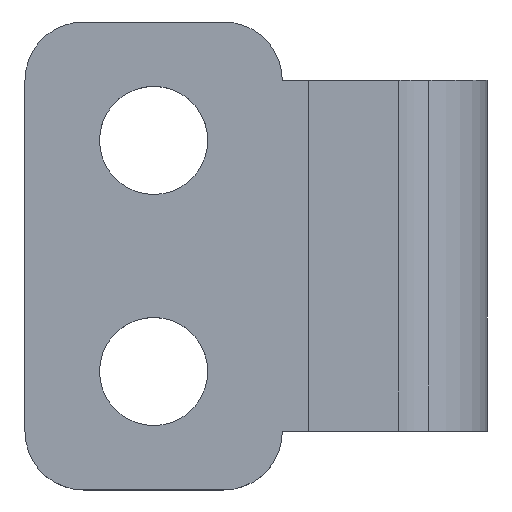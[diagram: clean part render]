
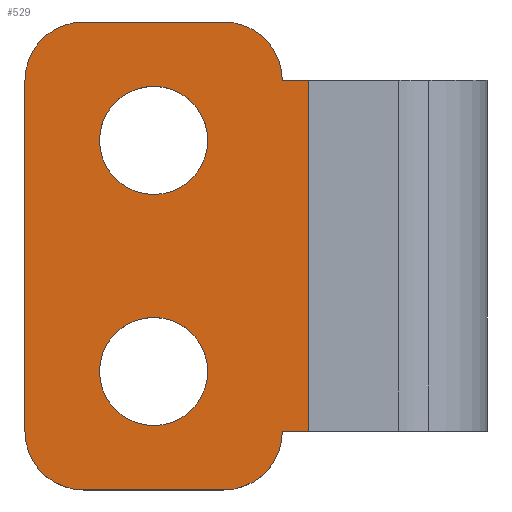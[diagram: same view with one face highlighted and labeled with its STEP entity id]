
A CAD part, top view. The second image highlights one B-rep face of the part: STEP entity #529.
In plain terms, the highlighted planar face has unit normal (0, 0, 1).
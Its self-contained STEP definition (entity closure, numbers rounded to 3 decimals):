
#141=CARTESIAN_POINT('',(-3.5,5.8,-2.35));
#142=VERTEX_POINT('',#141);
#151=CARTESIAN_POINT('',(-3.5,2.1,-2.35));
#152=VERTEX_POINT('',#151);
#153=CARTESIAN_POINT('',(-3.5,3.95,-2.35));
#154=DIRECTION('',(0.0,0.0,-1.0));
#155=DIRECTION('',(0.0,1.0,0.0));
#156=AXIS2_PLACEMENT_3D('',#153,#154,#155);
#157=CIRCLE('',#156,1.85);
#158=EDGE_CURVE('',#152,#142,#157,.T.);
#183=CARTESIAN_POINT('',(-3.5,-2.1,-2.35));
#184=VERTEX_POINT('',#183);
#193=CARTESIAN_POINT('',(-3.5,-5.8,-2.35));
#194=VERTEX_POINT('',#193);
#195=CARTESIAN_POINT('',(-3.5,-3.95,-2.35));
#196=DIRECTION('',(0.0,0.0,-1.0));
#197=DIRECTION('',(0.0,1.0,0.0));
#198=AXIS2_PLACEMENT_3D('',#195,#196,#197);
#199=CIRCLE('',#198,1.85);
#200=EDGE_CURVE('',#194,#184,#199,.T.);
#234=CARTESIAN_POINT('',(-3.5,-3.95,-2.35));
#235=DIRECTION('',(0.0,0.0,-1.0));
#236=DIRECTION('',(0.0,1.0,0.0));
#237=AXIS2_PLACEMENT_3D('',#234,#235,#236);
#238=CIRCLE('',#237,1.85);
#239=EDGE_CURVE('',#184,#194,#238,.T.);
#258=CARTESIAN_POINT('',(-3.5,3.95,-2.35));
#259=DIRECTION('',(0.0,0.0,-1.0));
#260=DIRECTION('',(0.0,1.0,0.0));
#261=AXIS2_PLACEMENT_3D('',#258,#259,#260);
#262=CIRCLE('',#261,1.85);
#263=EDGE_CURVE('',#142,#152,#262,.T.);
#273=CARTESIAN_POINT('',(-7.9,6.0,-2.35));
#274=VERTEX_POINT('',#273);
#275=CARTESIAN_POINT('',(-5.9,8.0,-2.35));
#276=VERTEX_POINT('',#275);
#277=CARTESIAN_POINT('',(-5.9,6.0,-2.35));
#278=DIRECTION('',(0.0,0.0,-1.0));
#279=DIRECTION('',(0.0,1.0,0.0));
#280=AXIS2_PLACEMENT_3D('',#277,#278,#279);
#281=CIRCLE('',#280,2.0);
#282=EDGE_CURVE('',#274,#276,#281,.T.);
#315=CARTESIAN_POINT('',(-1.1,8.,-2.35));
#316=VERTEX_POINT('',#315);
#317=CARTESIAN_POINT('',(-5.9,8.0,-2.35));
#318=DIRECTION('',(1.0,0.0,0.0));
#319=VECTOR('',#318,4.8);
#320=LINE('',#317,#319);
#321=EDGE_CURVE('',#276,#316,#320,.T.);
#346=CARTESIAN_POINT('',(0.9,6.,-2.35));
#347=VERTEX_POINT('',#346);
#348=CARTESIAN_POINT('',(-1.1,6.,-2.35));
#349=DIRECTION('',(0.0,0.0,-1.0));
#350=DIRECTION('',(0.0,1.0,0.0));
#351=AXIS2_PLACEMENT_3D('',#348,#349,#350);
#352=CIRCLE('',#351,2.0);
#353=EDGE_CURVE('',#316,#347,#352,.T.);
#379=CARTESIAN_POINT('',(0.9,-6.0,-2.35));
#380=VERTEX_POINT('',#379);
#381=CARTESIAN_POINT('',(-1.1,-8.0,-2.35));
#382=VERTEX_POINT('',#381);
#383=CARTESIAN_POINT('',(-1.1,-6.0,-2.35));
#384=DIRECTION('',(0.0,0.0,-1.0));
#385=DIRECTION('',(0.0,1.0,0.0));
#386=AXIS2_PLACEMENT_3D('',#383,#384,#385);
#387=CIRCLE('',#386,2.0);
#388=EDGE_CURVE('',#380,#382,#387,.T.);
#421=CARTESIAN_POINT('',(-5.9,-8.0,-2.35));
#422=VERTEX_POINT('',#421);
#423=CARTESIAN_POINT('',(-1.1,-8.0,-2.35));
#424=DIRECTION('',(-1.0,0.0,0.0));
#425=VECTOR('',#424,4.8);
#426=LINE('',#423,#425);
#427=EDGE_CURVE('',#382,#422,#426,.T.);
#452=CARTESIAN_POINT('',(-7.9,-6.0,-2.35));
#453=VERTEX_POINT('',#452);
#454=CARTESIAN_POINT('',(-5.9,-6.0,-2.35));
#455=DIRECTION('',(0.0,0.0,-1.0));
#456=DIRECTION('',(0.0,1.0,0.0));
#457=AXIS2_PLACEMENT_3D('',#454,#455,#456);
#458=CIRCLE('',#457,2.0);
#459=EDGE_CURVE('',#422,#453,#458,.T.);
#480=CARTESIAN_POINT('',(-7.9,6.0,-2.35));
#481=DIRECTION('',(0.0,0.0,1.0));
#482=DIRECTION('',(-1.0,0.0,0.0));
#483=AXIS2_PLACEMENT_3D('',#480,#481,#482);
#484=PLANE('',#483);
#485=CARTESIAN_POINT('',(3.8,-6.,-2.35));
#486=VERTEX_POINT('',#485);
#487=CARTESIAN_POINT('',(0.9,-6.0,-2.35));
#488=DIRECTION('',(1.0,0.0,0.0));
#489=VECTOR('',#488,2.9);
#490=LINE('',#487,#489);
#491=EDGE_CURVE('',#380,#486,#490,.T.);
#492=ORIENTED_EDGE('',*,*,#491,.T.);
#493=CARTESIAN_POINT('',(3.8,6.0,-2.35));
#494=VERTEX_POINT('',#493);
#495=CARTESIAN_POINT('',(3.8,6.0,-2.35));
#496=DIRECTION('',(0.0,-1.0,0.0));
#497=VECTOR('',#496,12.0);
#498=LINE('',#495,#497);
#499=EDGE_CURVE('',#494,#486,#498,.T.);
#500=ORIENTED_EDGE('',*,*,#499,.F.);
#501=CARTESIAN_POINT('',(0.9,6.,-2.35));
#502=DIRECTION('',(1.0,0.0,0.0));
#503=VECTOR('',#502,2.9);
#504=LINE('',#501,#503);
#505=EDGE_CURVE('',#347,#494,#504,.T.);
#506=ORIENTED_EDGE('',*,*,#505,.F.);
#507=ORIENTED_EDGE('',*,*,#353,.F.);
#508=ORIENTED_EDGE('',*,*,#321,.F.);
#509=ORIENTED_EDGE('',*,*,#282,.F.);
#510=CARTESIAN_POINT('',(-7.9,6.0,-2.35));
#511=DIRECTION('',(0.0,-1.0,0.0));
#512=VECTOR('',#511,12.0);
#513=LINE('',#510,#512);
#514=EDGE_CURVE('',#274,#453,#513,.T.);
#515=ORIENTED_EDGE('',*,*,#514,.T.);
#516=ORIENTED_EDGE('',*,*,#459,.F.);
#517=ORIENTED_EDGE('',*,*,#427,.F.);
#518=ORIENTED_EDGE('',*,*,#388,.F.);
#519=EDGE_LOOP('',(#492,#500,#506,#507,#508,#509,#515,#516,#517,#518));
#520=FACE_OUTER_BOUND('',#519,.T.);
#521=ORIENTED_EDGE('',*,*,#200,.T.);
#522=ORIENTED_EDGE('',*,*,#239,.T.);
#523=EDGE_LOOP('',(#521,#522));
#524=FACE_BOUND('',#523,.T.);
#525=ORIENTED_EDGE('',*,*,#158,.T.);
#526=ORIENTED_EDGE('',*,*,#263,.T.);
#527=EDGE_LOOP('',(#525,#526));
#528=FACE_BOUND('',#527,.T.);
#529=ADVANCED_FACE('',(#520,#524,#528),#484,.T.);
